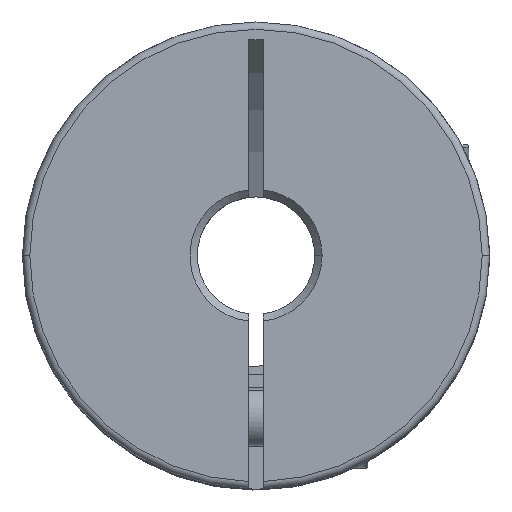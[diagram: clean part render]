
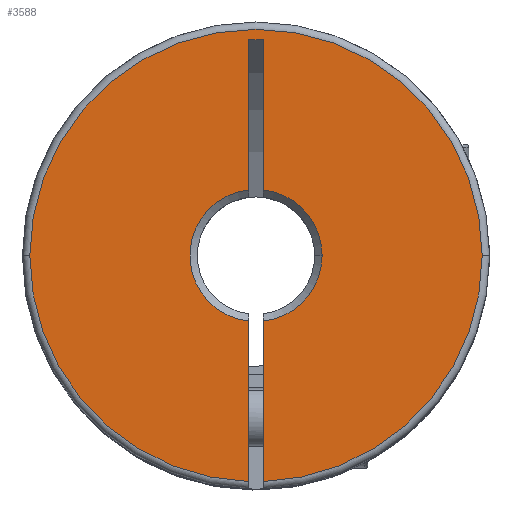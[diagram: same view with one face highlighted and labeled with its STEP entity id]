
A CAD part, top view. The second image highlights one B-rep face of the part: STEP entity #3588.
In plain terms, the highlighted planar face has unit normal (0, 0, 1).
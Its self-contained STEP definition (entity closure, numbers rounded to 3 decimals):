
#94 = VERTEX_POINT ( 'NONE', #1007 ) ;
#183 = EDGE_CURVE ( 'NONE', #4532, #2898, #5124, .T. ) ;
#328 = EDGE_CURVE ( 'NONE', #4520, #4519, #5280, .T. ) ;
#331 = EDGE_CURVE ( 'NONE', #4513, #4520, #5283, .T. ) ;
#636 = CARTESIAN_POINT ( 'NONE',  ( -0.5, -4.472, 39. ) ) ;
#641 = CARTESIAN_POINT ( 'NONE',  ( -0.5, -15.392, 39. ) ) ;
#745 = CARTESIAN_POINT ( 'NONE',  ( 0.5, -15.392, 39. ) ) ;
#749 = CARTESIAN_POINT ( 'NONE',  ( -15.4, 0., 39. ) ) ;
#750 = CARTESIAN_POINT ( 'NONE',  ( 15.4, 0., 39. ) ) ;
#762 = CARTESIAN_POINT ( 'NONE',  ( 0.5, 4.472, 39. ) ) ;
#1007 = CARTESIAN_POINT ( 'NONE',  ( 0.5, -4.472, 39. ) ) ;
#1067 = EDGE_CURVE ( 'NONE', #4519, #2836, #5360, .T. ) ;
#1068 = EDGE_CURVE ( 'NONE', #2836, #2831, #5368, .T. ) ;
#1069 = EDGE_CURVE ( 'NONE', #2831, #2920, #5369, .T. ) ;
#1070 = EDGE_CURVE ( 'NONE', #2920, #2929, #5160, .T. ) ;
#1071 = EDGE_CURVE ( 'NONE', #2929, #2925, #2944, .T. ) ;
#1072 = EDGE_CURVE ( 'NONE', #4532, #2925, #2943, .T. ) ;
#1073 = EDGE_CURVE ( 'NONE', #2898, #94, #2946, .T. ) ;
#1074 = EDGE_CURVE ( 'NONE', #4513, #94, #2948, .T. ) ;
#1809 = FACE_OUTER_BOUND ( 'NONE', #2027, .T. ) ;
#2027 = EDGE_LOOP ( 'NONE', ( #2742, #2743, #2744, #2745, #2746, #2747, #2748, #2749, #2750, #2751, #2752 ) ) ;
#2240 = AXIS2_PLACEMENT_3D ( 'NONE', #6064, #5701, #5702 ) ;
#2553 = DIRECTION ( 'NONE',  ( 0., 1., 0. ) ) ;
#2558 = CARTESIAN_POINT ( 'NONE',  ( -0.5, 0., 39. ) ) ;
#2560 = CARTESIAN_POINT ( 'NONE',  ( -0.5, 0., 39. ) ) ;
#2561 = DIRECTION ( 'NONE',  ( 0., 1., 0. ) ) ;
#2562 = CARTESIAN_POINT ( 'NONE',  ( 0., 0., 39. ) ) ;
#2563 = DIRECTION ( 'NONE',  ( 0., 0., 1. ) ) ;
#2564 = DIRECTION ( 'NONE',  ( 1., 0., 0. ) ) ;
#2565 = CARTESIAN_POINT ( 'NONE',  ( 0.5, 0., 39. ) ) ;
#2566 = DIRECTION ( 'NONE',  ( 0., 1., 0. ) ) ;
#2567 = CARTESIAN_POINT ( 'NONE',  ( 0., 0., 39. ) ) ;
#2568 = DIRECTION ( 'NONE',  ( 0., 0., -1. ) ) ;
#2569 = DIRECTION ( 'NONE',  ( 1., 0., 0. ) ) ;
#2570 = CARTESIAN_POINT ( 'NONE',  ( -0.5, 14.7, 39. ) ) ;
#2571 = DIRECTION ( 'NONE',  ( 1., 0., 0. ) ) ;
#2572 = CARTESIAN_POINT ( 'NONE',  ( 0.5, 0., 39. ) ) ;
#2573 = DIRECTION ( 'NONE',  ( 0., 1., 0. ) ) ;
#2576 = CARTESIAN_POINT ( 'NONE',  ( 0., 0., 39. ) ) ;
#2577 = DIRECTION ( 'NONE',  ( 0., 0., -1. ) ) ;
#2578 = DIRECTION ( 'NONE',  ( 1., 0., 0. ) ) ;
#2742 = ORIENTED_EDGE ( 'NONE', *, *, #331, .T. ) ;
#2743 = ORIENTED_EDGE ( 'NONE', *, *, #328, .T. ) ;
#2744 = ORIENTED_EDGE ( 'NONE', *, *, #1067, .T. ) ;
#2745 = ORIENTED_EDGE ( 'NONE', *, *, #1068, .T. ) ;
#2746 = ORIENTED_EDGE ( 'NONE', *, *, #1069, .T. ) ;
#2747 = ORIENTED_EDGE ( 'NONE', *, *, #1070, .T. ) ;
#2748 = ORIENTED_EDGE ( 'NONE', *, *, #1071, .T. ) ;
#2749 = ORIENTED_EDGE ( 'NONE', *, *, #1072, .F. ) ;
#2750 = ORIENTED_EDGE ( 'NONE', *, *, #183, .T. ) ;
#2751 = ORIENTED_EDGE ( 'NONE', *, *, #1073, .T. ) ;
#2752 = ORIENTED_EDGE ( 'NONE', *, *, #1074, .F. ) ;
#2831 = VERTEX_POINT ( 'NONE', #636 ) ;
#2836 = VERTEX_POINT ( 'NONE', #641 ) ;
#2898 = VERTEX_POINT ( 'NONE', #4070 ) ;
#2920 = VERTEX_POINT ( 'NONE', #4092 ) ;
#2925 = VERTEX_POINT ( 'NONE', #4097 ) ;
#2929 = VERTEX_POINT ( 'NONE', #4101 ) ;
#2942 = VECTOR ( 'NONE', #2561, 1000. ) ;
#2943 = LINE ( 'NONE', #2572, #2947 ) ;
#2944 = LINE ( 'NONE', #2570, #2945 ) ;
#2945 = VECTOR ( 'NONE', #2571, 1000. ) ;
#2946 = CIRCLE ( 'NONE', #4819, 4.5 ) ;
#2947 = VECTOR ( 'NONE', #2573, 1000. ) ;
#2948 = LINE ( 'NONE', #2565, #2950 ) ;
#2950 = VECTOR ( 'NONE', #2566, 1000. ) ;
#3528 = CARTESIAN_POINT ( 'NONE',  ( 0., 0., 39. ) ) ;
#3529 = DIRECTION ( 'NONE',  ( 0., 0., 1. ) ) ;
#3530 = DIRECTION ( 'NONE',  ( 1., 0., 0. ) ) ;
#3539 = CARTESIAN_POINT ( 'NONE',  ( 0., 0., 39. ) ) ;
#3540 = DIRECTION ( 'NONE',  ( 0., 0., 1. ) ) ;
#3541 = DIRECTION ( 'NONE',  ( 1., 0., 0. ) ) ;
#3588 = ADVANCED_FACE ( 'NONE', ( #1809 ), #4263, .T. ) ;
#3887 = AXIS2_PLACEMENT_3D ( 'NONE', #4259, #4265, #4266 ) ;
#4070 = CARTESIAN_POINT ( 'NONE',  ( 4.5, 0., 39. ) ) ;
#4092 = CARTESIAN_POINT ( 'NONE',  ( -0.5, 4.472, 39. ) ) ;
#4097 = CARTESIAN_POINT ( 'NONE',  ( 0.5, 14.7, 39. ) ) ;
#4101 = CARTESIAN_POINT ( 'NONE',  ( -0.5, 14.7, 39. ) ) ;
#4259 = CARTESIAN_POINT ( 'NONE',  ( 0., 0., 39. ) ) ;
#4263 = PLANE ( 'NONE',  #3887 ) ;
#4265 = DIRECTION ( 'NONE',  ( 0., 0., 1. ) ) ;
#4266 = DIRECTION ( 'NONE',  ( 1., 0., 0. ) ) ;
#4513 = VERTEX_POINT ( 'NONE', #745 ) ;
#4519 = VERTEX_POINT ( 'NONE', #749 ) ;
#4520 = VERTEX_POINT ( 'NONE', #750 ) ;
#4532 = VERTEX_POINT ( 'NONE', #762 ) ;
#4773 = AXIS2_PLACEMENT_3D ( 'NONE', #3528, #3529, #3530 ) ;
#4776 = AXIS2_PLACEMENT_3D ( 'NONE', #3539, #3540, #3541 ) ;
#4817 = AXIS2_PLACEMENT_3D ( 'NONE', #2562, #2563, #2564 ) ;
#4818 = AXIS2_PLACEMENT_3D ( 'NONE', #2567, #2568, #2569 ) ;
#4819 = AXIS2_PLACEMENT_3D ( 'NONE', #2576, #2577, #2578 ) ;
#5124 = CIRCLE ( 'NONE', #2240, 4.5 ) ;
#5160 = LINE ( 'NONE', #2560, #2942 ) ;
#5280 = CIRCLE ( 'NONE', #4773, 15.4 ) ;
#5283 = CIRCLE ( 'NONE', #4776, 15.4 ) ;
#5360 = CIRCLE ( 'NONE', #4817, 15.4 ) ;
#5368 = LINE ( 'NONE', #2558, #5370 ) ;
#5369 = CIRCLE ( 'NONE', #4818, 4.5 ) ;
#5370 = VECTOR ( 'NONE', #2553, 1000. ) ;
#5701 = DIRECTION ( 'NONE',  ( 0., 0., -1. ) ) ;
#5702 = DIRECTION ( 'NONE',  ( 1., 0., 0. ) ) ;
#6064 = CARTESIAN_POINT ( 'NONE',  ( 0., 0., 39. ) ) ;
